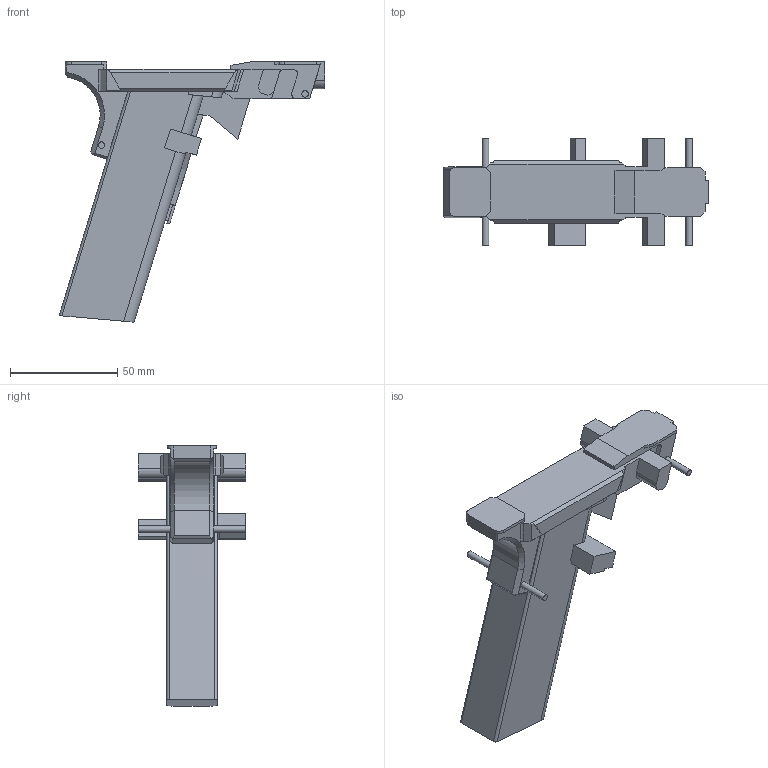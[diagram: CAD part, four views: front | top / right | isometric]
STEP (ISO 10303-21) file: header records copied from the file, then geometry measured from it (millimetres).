
FILE_DESCRIPTION(/* description */ (''),/* implementation_level */ '2;1');
FILE_NAME(/* name */ 'G100 120 Series Boolean.step',/* time_stamp */ '2024-06-20T23:09:30-05:00',/* author */ (''),/* organization */ (''),/* preprocessor_version */ 'ST-DEVELOPER v20',/* originating_system */ 'Autodesk Translation Framework v13.14.0.145',/* authorisation */ '');
FILE_SCHEMA (('AUTOMOTIVE_DESIGN { 1 0 10303 214 3 1 1 }'));
Length unit declared in the file: millimetre
Products named in the file (2): Spectre 2 Copy for negative boolean; RevE Boolean v1
Assembly tree (1 placements, depth 2):
  Spectre 2 Copy for negative boolean
    RevE Boolean v1
Bounding box: 123.78 x 50 x 121.31 mm (x, y, z)
Volume: 140214.5 mm3; surface area: 26207.8 mm2
Topology: 1 solids, 1 shells, 165 faces, 470 edges, 311 vertices
Faces by surface type: plane 120, cylinder 40, bspline 3, cone 2
Full cylindrical faces by diameter (mm): 1.321 x1, 3 x4
Entity records: 5534 total; most frequent: CARTESIAN_POINT 1066, ORIENTED_EDGE 940, DIRECTION 879, EDGE_CURVE 470, LINE 367, VECTOR 367, VERTEX_POINT 311, AXIS2_PLACEMENT_3D 256
